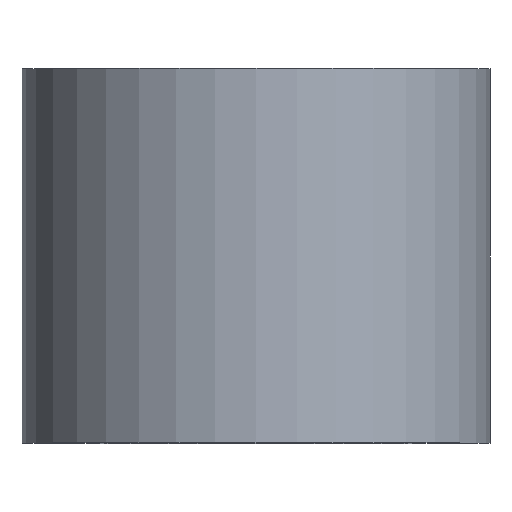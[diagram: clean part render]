
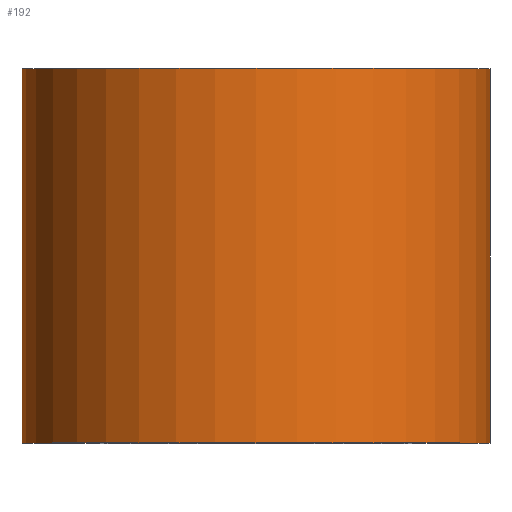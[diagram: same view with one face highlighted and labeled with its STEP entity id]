
A CAD part, top view. The second image highlights one B-rep face of the part: STEP entity #192.
In plain terms, the highlighted cylindrical face has radius 7.5 mm (diameter 15 mm), a partial arc.
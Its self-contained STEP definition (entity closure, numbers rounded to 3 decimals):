
#17 = DIRECTION ( 'NONE',  ( 0., 1., 0. ) ) ;
#19 = CYLINDRICAL_SURFACE ( 'NONE', #137, 7.5 ) ;
#22 = ORIENTED_EDGE ( 'NONE', *, *, #282, .F. ) ;
#30 = VERTEX_POINT ( 'NONE', #190 ) ;
#32 = DIRECTION ( 'NONE',  ( -1., 0., 0. ) ) ;
#34 = DIRECTION ( 'NONE',  ( 0., 1., 0. ) ) ;
#48 = VECTOR ( 'NONE', #267, 1000. ) ;
#55 = CARTESIAN_POINT ( 'NONE',  ( 0., 0., 0. ) ) ;
#70 = VERTEX_POINT ( 'NONE', #237 ) ;
#85 = CARTESIAN_POINT ( 'NONE',  ( -7.5, 0., 0. ) ) ;
#88 = DIRECTION ( 'NONE',  ( 0., 1., 0. ) ) ;
#93 = CIRCLE ( 'NONE', #255, 7.5 ) ;
#107 = DIRECTION ( 'NONE',  ( 0., 1., 0. ) ) ;
#117 = FACE_OUTER_BOUND ( 'NONE', #209, .T. ) ;
#119 = EDGE_CURVE ( 'NONE', #30, #70, #93, .T. ) ;
#137 = AXIS2_PLACEMENT_3D ( 'NONE', #222, #107, #32 ) ;
#142 = ORIENTED_EDGE ( 'NONE', *, *, #119, .T. ) ;
#143 = ORIENTED_EDGE ( 'NONE', *, *, #230, .T. ) ;
#160 = VERTEX_POINT ( 'NONE', #264 ) ;
#166 = LINE ( 'NONE', #175, #48 ) ;
#175 = CARTESIAN_POINT ( 'NONE',  ( 7.5, 0., 0. ) ) ;
#176 = VECTOR ( 'NONE', #17, 1000. ) ;
#183 = AXIS2_PLACEMENT_3D ( 'NONE', #203, #88, #245 ) ;
#190 = CARTESIAN_POINT ( 'NONE',  ( -7.5, 0., 0. ) ) ;
#192 = ADVANCED_FACE ( 'NONE', ( #117 ), #19, .T. ) ;
#196 = DIRECTION ( 'NONE',  ( -1., 0., 0. ) ) ;
#203 = CARTESIAN_POINT ( 'NONE',  ( 0., 12., 0. ) ) ;
#209 = EDGE_LOOP ( 'NONE', ( #142, #143, #226, #22 ) ) ;
#222 = CARTESIAN_POINT ( 'NONE',  ( 0., 0., 0. ) ) ;
#226 = ORIENTED_EDGE ( 'NONE', *, *, #287, .F. ) ;
#228 = CARTESIAN_POINT ( 'NONE',  ( 7.5, 12., 0. ) ) ;
#230 = EDGE_CURVE ( 'NONE', #70, #265, #166, .T. ) ;
#235 = LINE ( 'NONE', #85, #176 ) ;
#237 = CARTESIAN_POINT ( 'NONE',  ( 7.5, 0., 0. ) ) ;
#245 = DIRECTION ( 'NONE',  ( -1., 0., 0. ) ) ;
#255 = AXIS2_PLACEMENT_3D ( 'NONE', #55, #34, #196 ) ;
#264 = CARTESIAN_POINT ( 'NONE',  ( -7.5, 12., 0. ) ) ;
#265 = VERTEX_POINT ( 'NONE', #228 ) ;
#267 = DIRECTION ( 'NONE',  ( 0., 1., 0. ) ) ;
#279 = CIRCLE ( 'NONE', #183, 7.5 ) ;
#282 = EDGE_CURVE ( 'NONE', #30, #160, #235, .T. ) ;
#287 = EDGE_CURVE ( 'NONE', #160, #265, #279, .T. ) ;
